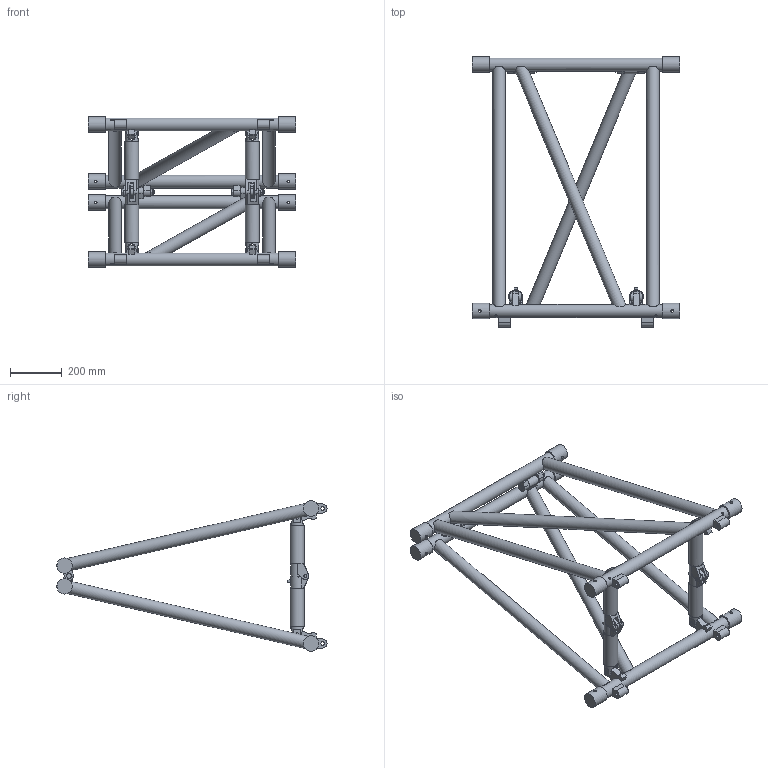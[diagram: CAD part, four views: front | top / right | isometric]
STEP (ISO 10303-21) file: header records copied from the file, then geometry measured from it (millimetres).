
FILE_DESCRIPTION(/* description */ (''),/* implementation_level */ '2;1');
FILE_NAME(/* name */ 'M:\Symbolen_NIEUW\STP\100-er truss\S100F\S100F-L080_111110030.stp',/* time_stamp */ '2017-11-30T14:59:33+01:00',/* author */ ('Kees'),/* organization */ (''),/* preprocessor_version */ 'ST-DEVELOPER v16.13',/* originating_system */ 'Autodesk Inventor 2018',/* authorisation */ '');
FILE_SCHEMA (('AUTOMOTIVE_DESIGN { 1 0 10303 214 3 1 1 }'));
Length unit declared in the file: millimetre
Products named in the file (1): 260010023
Bounding box: 800 x 1040.61 x 578.8 mm (x, y, z)
Volume: 19766604.2 mm3; surface area: 1754573.5 mm2
Topology: 8 solids, 8 shells, 564 faces, 1459 edges, 956 vertices
Faces by surface type: plane 374, cylinder 152, cone 38
Full cylindrical faces by diameter (mm): 10 x8, 12 x12, 12.5 x10, 12.8 x8, 13 x12, 17.4 x4, 24 x4, 48.3 x6, 50 x8, 54 x4, 58.8 x8
Entity records: 18713 total; most frequent: CARTESIAN_POINT 4688, DIRECTION 2747, ORIENTED_EDGE 2646, EDGE_CURVE 1323, AXIS2_PLACEMENT_3D 1011, VERTEX_POINT 922, EDGE_LOOP 799, LINE 725
